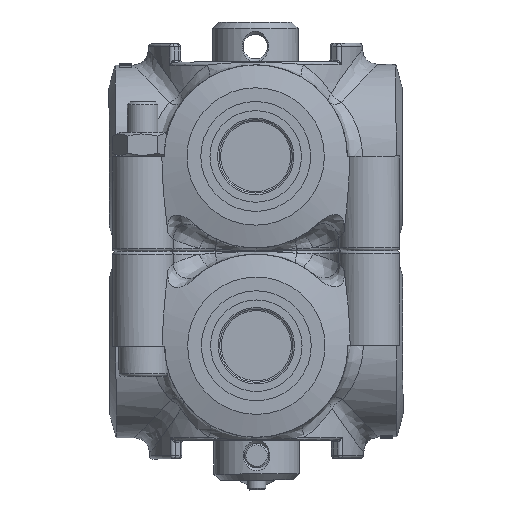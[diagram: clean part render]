
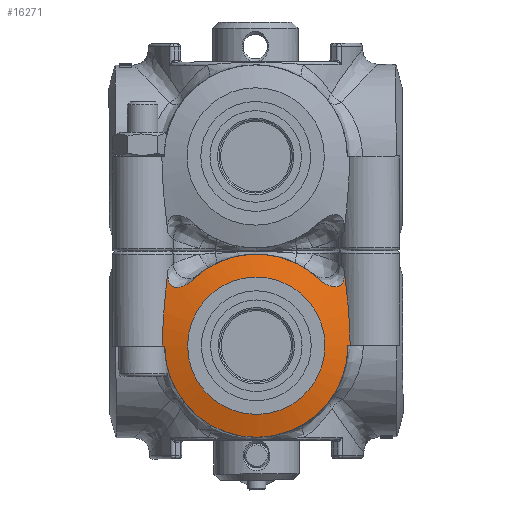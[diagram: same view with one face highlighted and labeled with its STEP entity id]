
A CAD part, left-side view. The second image highlights one B-rep face of the part: STEP entity #16271.
In plain terms, the highlighted conical face has half-angle 75 degrees and reference radius 26.25 mm.
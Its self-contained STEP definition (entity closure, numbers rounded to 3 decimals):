
#3075=CARTESIAN_POINT('',(84.964,-22.452,50.212));
#3076=VERTEX_POINT('',#3075);
#3083=CARTESIAN_POINT('',(85.161,-21.718,50.209));
#3084=VERTEX_POINT('',#3083);
#3085=CARTESIAN_POINT('',(84.964,-22.452,50.212));
#3086=DIRECTION('',(0.259,0.966,-0.003));
#3087=VECTOR('',#3086,0.76);
#3088=LINE('',#3085,#3087);
#3089=EDGE_CURVE('',#3084,#3076,#3088,.F.);
#13055=CARTESIAN_POINT('',(84.964,-31.55,71.827));
#13056=VERTEX_POINT('',#13055);
#13057=CARTESIAN_POINT('',(87.104,-23.483,74.877));
#13058=VERTEX_POINT('',#13057);
#13059=CARTESIAN_POINT('',(87.104,-23.483,74.877));
#13060=CARTESIAN_POINT('',(86.938,-23.367,73.783));
#13061=CARTESIAN_POINT('',(86.747,-23.427,72.695));
#13062=CARTESIAN_POINT('',(86.442,-23.802,71.296));
#13063=CARTESIAN_POINT('',(86.32,-24.005,70.802));
#13064=CARTESIAN_POINT('',(86.102,-24.516,70.118));
#13065=CARTESIAN_POINT('',(86.012,-24.765,69.887));
#13066=CARTESIAN_POINT('',(85.838,-25.332,69.561));
#13067=CARTESIAN_POINT('',(85.759,-25.625,69.466));
#13068=CARTESIAN_POINT('',(85.588,-26.332,69.357));
#13069=CARTESIAN_POINT('',(85.502,-26.746,69.378));
#13070=CARTESIAN_POINT('',(85.305,-27.798,69.553));
#13071=CARTESIAN_POINT('',(85.199,-28.495,69.798));
#13072=CARTESIAN_POINT('',(85.07,-29.599,70.351));
#13073=CARTESIAN_POINT('',(85.031,-30.014,70.601));
#13074=CARTESIAN_POINT('',(84.978,-30.811,71.165));
#13075=CARTESIAN_POINT('',(84.964,-31.195,71.482));
#13076=CARTESIAN_POINT('',(84.964,-31.55,71.827));
#13077=B_SPLINE_CURVE_WITH_KNOTS('',3,(#13059,#13060,#13061,#13062,#13063,#13064,#13065,#13066,#13067,#13068,#13069,#13070,#13071,#13072,#13073,#13074,#13075,#13076),.UNSPECIFIED.,.F.,.U.,(4,2,2,2,2,2,2,2,4),(0.0,0.334,0.517,0.641,0.753,0.898,1.132,1.281,1.433),.UNSPECIFIED.);
#13078=EDGE_CURVE('',#13056,#13058,#13077,.F.);
#13351=CARTESIAN_POINT('',(84.964,-73.216,71.96));
#13352=VERTEX_POINT('',#13351);
#13353=CARTESIAN_POINT('',(87.104,-81.263,75.061));
#13354=VERTEX_POINT('',#13353);
#13355=CARTESIAN_POINT('',(84.964,-73.216,71.96));
#13356=CARTESIAN_POINT('',(84.964,-74.083,71.129));
#13357=CARTESIAN_POINT('',(85.047,-75.059,70.515));
#13358=CARTESIAN_POINT('',(85.252,-76.645,69.819));
#13359=CARTESIAN_POINT('',(85.367,-77.351,69.613));
#13360=CARTESIAN_POINT('',(85.582,-78.416,69.528));
#13361=CARTESIAN_POINT('',(85.675,-78.828,69.553));
#13362=CARTESIAN_POINT('',(85.861,-79.528,69.768));
#13363=CARTESIAN_POINT('',(85.946,-79.809,69.921));
#13364=CARTESIAN_POINT('',(86.126,-80.324,70.36));
#13365=CARTESIAN_POINT('',(86.216,-80.535,70.641));
#13366=CARTESIAN_POINT('',(86.429,-80.955,71.414));
#13367=CARTESIAN_POINT('',(86.548,-81.112,71.948));
#13368=CARTESIAN_POINT('',(86.812,-81.346,73.26));
#13369=CARTESIAN_POINT('',(86.966,-81.365,74.154));
#13370=CARTESIAN_POINT('',(87.104,-81.263,75.061));
#13371=B_SPLINE_CURVE_WITH_KNOTS('',3,(#13355,#13356,#13357,#13358,#13359,#13360,#13361,#13362,#13363,#13364,#13365,#13366,#13367,#13368,#13369,#13370),.UNSPECIFIED.,.F.,.U.,(4,2,2,2,2,2,2,4),(0.0,0.36,0.63,0.796,0.931,1.076,1.293,1.619),.UNSPECIFIED.);
#13372=EDGE_CURVE('',#13352,#13354,#13371,.T.);
#13468=CARTESIAN_POINT('',(84.964,-82.452,50.403));
#13469=VERTEX_POINT('',#13468);
#13476=CARTESIAN_POINT('',(84.964,-52.452,50.307));
#13477=DIRECTION('',(-1.0,0.,0.));
#13478=DIRECTION('',(0.,1.,-0.003));
#13479=AXIS2_PLACEMENT_3D('',#13476,#13477,#13478);
#13480=CIRCLE('',#13479,30.0);
#13481=EDGE_CURVE('',#3076,#13469,#13480,.T.);
#13499=CARTESIAN_POINT('',(84.964,-52.452,50.307));
#13500=DIRECTION('',(-1.0,0.,0.));
#13501=DIRECTION('',(0.,1.,-0.003));
#13502=AXIS2_PLACEMENT_3D('',#13499,#13500,#13501);
#13503=CIRCLE('',#13502,30.0);
#13504=EDGE_CURVE('',#13352,#13056,#13503,.T.);
#13514=CARTESIAN_POINT('',(85.161,-21.718,50.209));
#13515=CARTESIAN_POINT('',(85.161,-21.707,53.429));
#13516=CARTESIAN_POINT('',(85.27,-21.839,56.963));
#13517=CARTESIAN_POINT('',(85.741,-22.343,64.));
#13518=CARTESIAN_POINT('',(86.103,-22.7,67.505));
#13519=CARTESIAN_POINT('',(86.687,-23.178,72.021));
#13520=CARTESIAN_POINT('',(86.885,-23.33,73.434));
#13521=CARTESIAN_POINT('',(87.104,-23.483,74.877));
#13522=B_SPLINE_CURVE_WITH_KNOTS('',3,(#13514,#13515,#13516,#13517,#13518,#13519,#13520,#13521),.UNSPECIFIED.,.F.,.U.,(4,2,2,4),(8.073,9.039,10.005,10.412),.UNSPECIFIED.);
#13523=EDGE_CURVE('',#3084,#13058,#13522,.T.);
#14872=CARTESIAN_POINT('',(85.161,-83.186,50.406));
#14873=VERTEX_POINT('',#14872);
#14874=CARTESIAN_POINT('',(87.104,-81.263,75.061));
#14875=CARTESIAN_POINT('',(86.885,-81.426,73.619));
#14876=CARTESIAN_POINT('',(86.687,-81.587,72.208));
#14877=CARTESIAN_POINT('',(86.103,-82.093,67.694));
#14878=CARTESIAN_POINT('',(85.741,-82.473,64.192));
#14879=CARTESIAN_POINT('',(85.27,-83.021,57.158));
#14880=CARTESIAN_POINT('',(85.161,-83.176,53.625));
#14881=CARTESIAN_POINT('',(85.161,-83.186,50.406));
#14882=B_SPLINE_CURVE_WITH_KNOTS('',3,(#14874,#14875,#14876,#14877,#14878,#14879,#14880,#14881),.UNSPECIFIED.,.F.,.U.,(4,2,2,4),(5.733,6.141,7.107,8.073),.UNSPECIFIED.);
#14883=EDGE_CURVE('',#13354,#14873,#14882,.T.);
#16240=CARTESIAN_POINT('',(83.96,-52.452,50.307));
#16241=DIRECTION('',(1.0,0.,0.));
#16242=DIRECTION('',(0.,1.,-0.003));
#16243=AXIS2_PLACEMENT_3D('',#16240,#16241,#16242);
#16244=CONICAL_SURFACE('',#16243,26.25,75.);
#16245=CARTESIAN_POINT('',(82.955,-74.952,50.379));
#16246=VERTEX_POINT('',#16245);
#16247=CARTESIAN_POINT('',(82.955,-52.452,50.307));
#16248=DIRECTION('',(1.0,0.,0.));
#16249=DIRECTION('',(0.,1.,-0.003));
#16250=AXIS2_PLACEMENT_3D('',#16247,#16248,#16249);
#16251=CIRCLE('',#16250,22.5);
#16252=EDGE_CURVE('',#16246,#16246,#16251,.T.);
#16253=ORIENTED_EDGE('',*,*,#16252,.T.);
#16254=EDGE_LOOP('',(#16253));
#16255=FACE_OUTER_BOUND('',#16254,.T.);
#16256=ORIENTED_EDGE('',*,*,#13504,.T.);
#16257=ORIENTED_EDGE('',*,*,#13078,.T.);
#16258=ORIENTED_EDGE('',*,*,#13523,.F.);
#16259=ORIENTED_EDGE('',*,*,#3089,.T.);
#16260=ORIENTED_EDGE('',*,*,#13481,.T.);
#16261=CARTESIAN_POINT('',(85.161,-83.186,50.406));
#16262=DIRECTION('',(-0.259,0.966,-0.003));
#16263=VECTOR('',#16262,0.76);
#16264=LINE('',#16261,#16263);
#16265=EDGE_CURVE('',#14873,#13469,#16264,.T.);
#16266=ORIENTED_EDGE('',*,*,#16265,.F.);
#16267=ORIENTED_EDGE('',*,*,#14883,.F.);
#16268=ORIENTED_EDGE('',*,*,#13372,.F.);
#16269=EDGE_LOOP('',(#16256,#16257,#16258,#16259,#16260,#16266,#16267,#16268));
#16270=FACE_BOUND('',#16269,.T.);
#16271=ADVANCED_FACE('',(#16255,#16270),#16244,.T.);
